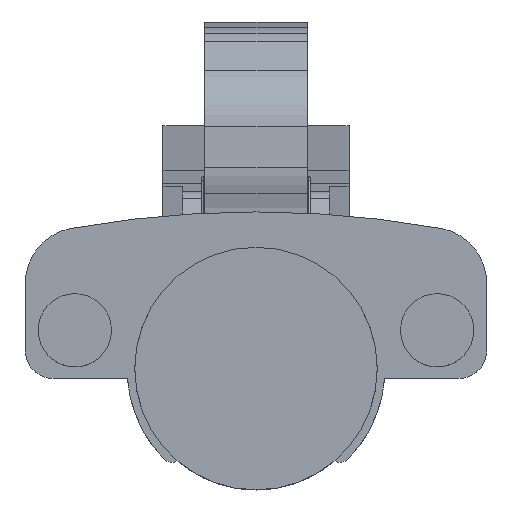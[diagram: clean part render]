
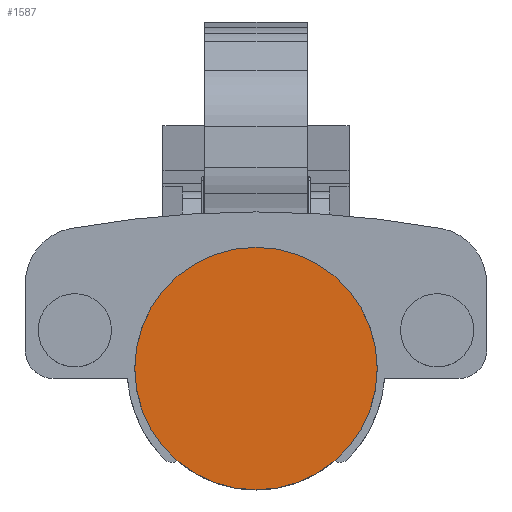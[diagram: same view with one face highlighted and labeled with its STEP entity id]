
A CAD part, top view. The second image highlights one B-rep face of the part: STEP entity #1587.
In plain terms, the highlighted planar face has unit normal (0, 0, 1).
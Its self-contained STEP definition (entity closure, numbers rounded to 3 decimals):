
#1125 = EDGE_CURVE ( 'NONE', #17675, #8177, #15966, .T. ) ;
#1587 = ADVANCED_FACE ( 'NONE', ( #1605 ), #8882, .T. ) ;
#1605 = FACE_OUTER_BOUND ( 'NONE', #21272, .T. ) ;
#3722 = ORIENTED_EDGE ( 'NONE', *, *, #19063, .T. ) ;
#5423 = CARTESIAN_POINT ( 'NONE',  ( -10.55, 14.368, 14.008 ) ) ;
#8050 = CARTESIAN_POINT ( 'NONE',  ( 0., -11.678, 14.008 ) ) ;
#8177 = VERTEX_POINT ( 'NONE', #8050 ) ;
#8286 = CARTESIAN_POINT ( 'NONE',  ( 0., 5.722, 14.008 ) ) ;
#8882 = PLANE ( 'NONE',  #11799 ) ;
#9982 = DIRECTION ( 'NONE',  ( 1., 0., 0. ) ) ;
#10182 = AXIS2_PLACEMENT_3D ( 'NONE', #8286, #22553, #9982 ) ;
#11799 = AXIS2_PLACEMENT_3D ( 'NONE', #5423, #17839, #18082 ) ;
#13629 = CARTESIAN_POINT ( 'NONE',  ( 0., 5.722, 14.008 ) ) ;
#13754 = DIRECTION ( 'NONE',  ( 0., 0., 1. ) ) ;
#14352 = ORIENTED_EDGE ( 'NONE', *, *, #1125, .T. ) ;
#15966 = CIRCLE ( 'NONE', #19036, 17.4 ) ;
#17326 = DIRECTION ( 'NONE',  ( 1., 0., 0. ) ) ;
#17675 = VERTEX_POINT ( 'NONE', #22262 ) ;
#17839 = DIRECTION ( 'NONE',  ( 0., 0., 1. ) ) ;
#18082 = DIRECTION ( 'NONE',  ( 1., 0., 0. ) ) ;
#19036 = AXIS2_PLACEMENT_3D ( 'NONE', #13629, #13754, #17326 ) ;
#19063 = EDGE_CURVE ( 'NONE', #8177, #17675, #20896, .T. ) ;
#20896 = CIRCLE ( 'NONE', #10182, 17.4 ) ;
#21272 = EDGE_LOOP ( 'NONE', ( #3722, #14352 ) ) ;
#22262 = CARTESIAN_POINT ( 'NONE',  ( 0., 23.122, 14.008 ) ) ;
#22553 = DIRECTION ( 'NONE',  ( 0., 0., 1. ) ) ;
